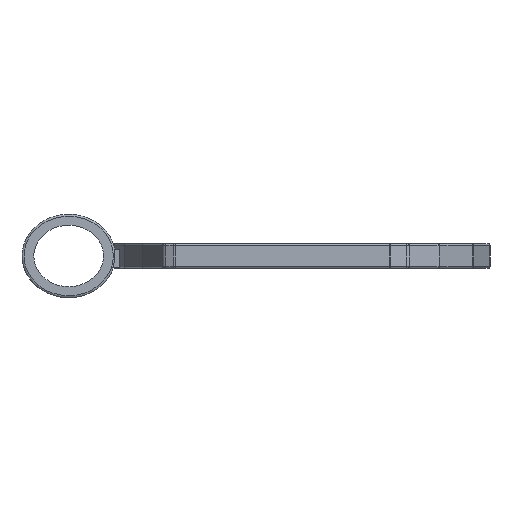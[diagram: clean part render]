
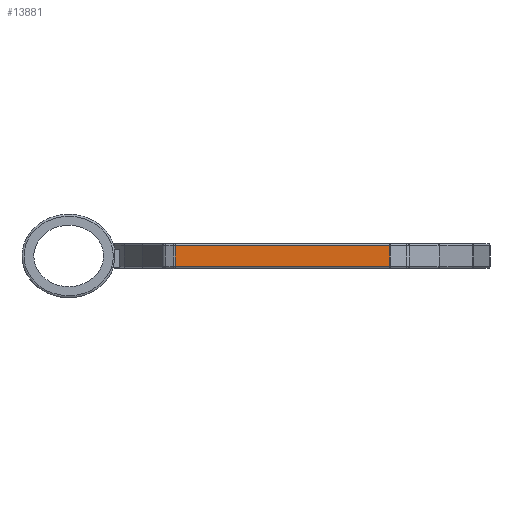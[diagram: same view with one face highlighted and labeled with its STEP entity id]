
A CAD part, left-side view. The second image highlights one B-rep face of the part: STEP entity #13881.
In plain terms, the highlighted planar face has unit normal (-1, 0, 0).
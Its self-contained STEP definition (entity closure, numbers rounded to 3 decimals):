
#1686 = CYLINDRICAL_SURFACE('',#1687,0.22);
#1687 = AXIS2_PLACEMENT_3D('',#1688,#1689,#1690);
#1688 = CARTESIAN_POINT('',(-16.78,15.479,0.22));
#1689 = DIRECTION('',(0.,-1.,0.));
#1690 = DIRECTION('',(-1.,-0.,0.));
#3613 = CYLINDRICAL_SURFACE('',#3614,0.22);
#3614 = AXIS2_PLACEMENT_3D('',#3615,#3616,#3617);
#3615 = CARTESIAN_POINT('',(-16.78,15.479,2.78));
#3616 = DIRECTION('',(0.,-1.,0.));
#3617 = DIRECTION('',(-1.,-0.,0.));
#6371 = VERTEX_POINT('',#6372);
#6372 = CARTESIAN_POINT('',(-17.,15.479,0.22));
#6387 = CYLINDRICAL_SURFACE('',#6388,0.65);
#6388 = AXIS2_PLACEMENT_3D('',#6389,#6390,#6391);
#6389 = CARTESIAN_POINT('',(-16.35,15.479,0.));
#6390 = DIRECTION('',(0.,0.,1.));
#6391 = DIRECTION('',(-0.933,0.359,0.));
#6479 = VERTEX_POINT('',#6480);
#6480 = CARTESIAN_POINT('',(-17.,-10.727,0.22));
#6500 = EDGE_CURVE('',#6371,#6479,#6501,.T.);
#6501 = SURFACE_CURVE('',#6502,(#6506,#6513),.PCURVE_S1.);
#6502 = LINE('',#6503,#6504);
#6503 = CARTESIAN_POINT('',(-17.,15.479,0.22));
#6504 = VECTOR('',#6505,1.);
#6505 = DIRECTION('',(0.,-1.,0.));
#6506 = PCURVE('',#1686,#6507);
#6507 = DEFINITIONAL_REPRESENTATION('',(#6508),#6512);
#6508 = LINE('',#6509,#6510);
#6509 = CARTESIAN_POINT('',(0.,0.));
#6510 = VECTOR('',#6511,1.);
#6511 = DIRECTION('',(0.,1.));
#6512 = ( GEOMETRIC_REPRESENTATION_CONTEXT(2) 
PARAMETRIC_REPRESENTATION_CONTEXT() REPRESENTATION_CONTEXT('2D SPACE',''
  ) );
#6513 = PCURVE('',#6514,#6519);
#6514 = PLANE('',#6515);
#6515 = AXIS2_PLACEMENT_3D('',#6516,#6517,#6518);
#6516 = CARTESIAN_POINT('',(-17.,15.6,0.));
#6517 = DIRECTION('',(1.,0.,-0.));
#6518 = DIRECTION('',(0.,-1.,0.));
#6519 = DEFINITIONAL_REPRESENTATION('',(#6520),#6524);
#6520 = LINE('',#6521,#6522);
#6521 = CARTESIAN_POINT('',(0.121,-0.22));
#6522 = VECTOR('',#6523,1.);
#6523 = DIRECTION('',(1.,0.));
#6524 = ( GEOMETRIC_REPRESENTATION_CONTEXT(2) 
PARAMETRIC_REPRESENTATION_CONTEXT() REPRESENTATION_CONTEXT('2D SPACE',''
  ) );
#6601 = CYLINDRICAL_SURFACE('',#6602,0.65);
#6602 = AXIS2_PLACEMENT_3D('',#6603,#6604,#6605);
#6603 = CARTESIAN_POINT('',(-16.35,-10.727,0.));
#6604 = DIRECTION('',(0.,0.,1.));
#6605 = DIRECTION('',(-1.,0.,0.));
#9389 = VERTEX_POINT('',#9390);
#9390 = CARTESIAN_POINT('',(-17.,15.479,2.78));
#9439 = VERTEX_POINT('',#9440);
#9440 = CARTESIAN_POINT('',(-17.,-10.727,2.78));
#9460 = EDGE_CURVE('',#9389,#9439,#9461,.T.);
#9461 = SURFACE_CURVE('',#9462,(#9466,#9473),.PCURVE_S1.);
#9462 = LINE('',#9463,#9464);
#9463 = CARTESIAN_POINT('',(-17.,15.479,2.78));
#9464 = VECTOR('',#9465,1.);
#9465 = DIRECTION('',(0.,-1.,0.));
#9466 = PCURVE('',#3613,#9467);
#9467 = DEFINITIONAL_REPRESENTATION('',(#9468),#9472);
#9468 = LINE('',#9469,#9470);
#9469 = CARTESIAN_POINT('',(-0.,0.));
#9470 = VECTOR('',#9471,1.);
#9471 = DIRECTION('',(-0.,1.));
#9472 = ( GEOMETRIC_REPRESENTATION_CONTEXT(2) 
PARAMETRIC_REPRESENTATION_CONTEXT() REPRESENTATION_CONTEXT('2D SPACE',''
  ) );
#9473 = PCURVE('',#6514,#9474);
#9474 = DEFINITIONAL_REPRESENTATION('',(#9475),#9479);
#9475 = LINE('',#9476,#9477);
#9476 = CARTESIAN_POINT('',(0.121,-2.78));
#9477 = VECTOR('',#9478,1.);
#9478 = DIRECTION('',(1.,0.));
#9479 = ( GEOMETRIC_REPRESENTATION_CONTEXT(2) 
PARAMETRIC_REPRESENTATION_CONTEXT() REPRESENTATION_CONTEXT('2D SPACE',''
  ) );
#13833 = EDGE_CURVE('',#6371,#9389,#13834,.T.);
#13834 = SURFACE_CURVE('',#13835,(#13839,#13846),.PCURVE_S1.);
#13835 = LINE('',#13836,#13837);
#13836 = CARTESIAN_POINT('',(-17.,15.479,0.));
#13837 = VECTOR('',#13838,1.);
#13838 = DIRECTION('',(0.,0.,1.));
#13839 = PCURVE('',#6387,#13840);
#13840 = DEFINITIONAL_REPRESENTATION('',(#13841),#13845);
#13841 = LINE('',#13842,#13843);
#13842 = CARTESIAN_POINT('',(0.367,0.));
#13843 = VECTOR('',#13844,1.);
#13844 = DIRECTION('',(0.,1.));
#13845 = ( GEOMETRIC_REPRESENTATION_CONTEXT(2) 
PARAMETRIC_REPRESENTATION_CONTEXT() REPRESENTATION_CONTEXT('2D SPACE',''
  ) );
#13846 = PCURVE('',#6514,#13847);
#13847 = DEFINITIONAL_REPRESENTATION('',(#13848),#13852);
#13848 = LINE('',#13849,#13850);
#13849 = CARTESIAN_POINT('',(0.121,0.));
#13850 = VECTOR('',#13851,1.);
#13851 = DIRECTION('',(0.,-1.));
#13852 = ( GEOMETRIC_REPRESENTATION_CONTEXT(2) 
PARAMETRIC_REPRESENTATION_CONTEXT() REPRESENTATION_CONTEXT('2D SPACE',''
  ) );
#13881 = ADVANCED_FACE('',(#13882),#6514,.F.);
#13882 = FACE_BOUND('',#13883,.F.);
#13883 = EDGE_LOOP('',(#13884,#13885,#13886,#13907));
#13884 = ORIENTED_EDGE('',*,*,#13833,.T.);
#13885 = ORIENTED_EDGE('',*,*,#9460,.T.);
#13886 = ORIENTED_EDGE('',*,*,#13887,.F.);
#13887 = EDGE_CURVE('',#6479,#9439,#13888,.T.);
#13888 = SURFACE_CURVE('',#13889,(#13893,#13900),.PCURVE_S1.);
#13889 = LINE('',#13890,#13891);
#13890 = CARTESIAN_POINT('',(-17.,-10.727,0.));
#13891 = VECTOR('',#13892,1.);
#13892 = DIRECTION('',(0.,0.,1.));
#13893 = PCURVE('',#6514,#13894);
#13894 = DEFINITIONAL_REPRESENTATION('',(#13895),#13899);
#13895 = LINE('',#13896,#13897);
#13896 = CARTESIAN_POINT('',(26.327,0.));
#13897 = VECTOR('',#13898,1.);
#13898 = DIRECTION('',(0.,-1.));
#13899 = ( GEOMETRIC_REPRESENTATION_CONTEXT(2) 
PARAMETRIC_REPRESENTATION_CONTEXT() REPRESENTATION_CONTEXT('2D SPACE',''
  ) );
#13900 = PCURVE('',#6601,#13901);
#13901 = DEFINITIONAL_REPRESENTATION('',(#13902),#13906);
#13902 = LINE('',#13903,#13904);
#13903 = CARTESIAN_POINT('',(0.,0.));
#13904 = VECTOR('',#13905,1.);
#13905 = DIRECTION('',(0.,1.));
#13906 = ( GEOMETRIC_REPRESENTATION_CONTEXT(2) 
PARAMETRIC_REPRESENTATION_CONTEXT() REPRESENTATION_CONTEXT('2D SPACE',''
  ) );
#13907 = ORIENTED_EDGE('',*,*,#6500,.F.);
